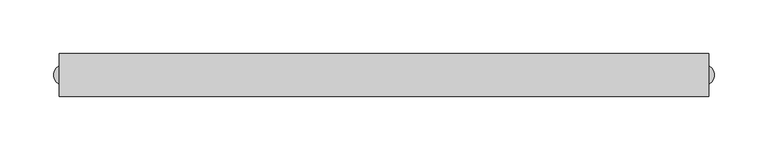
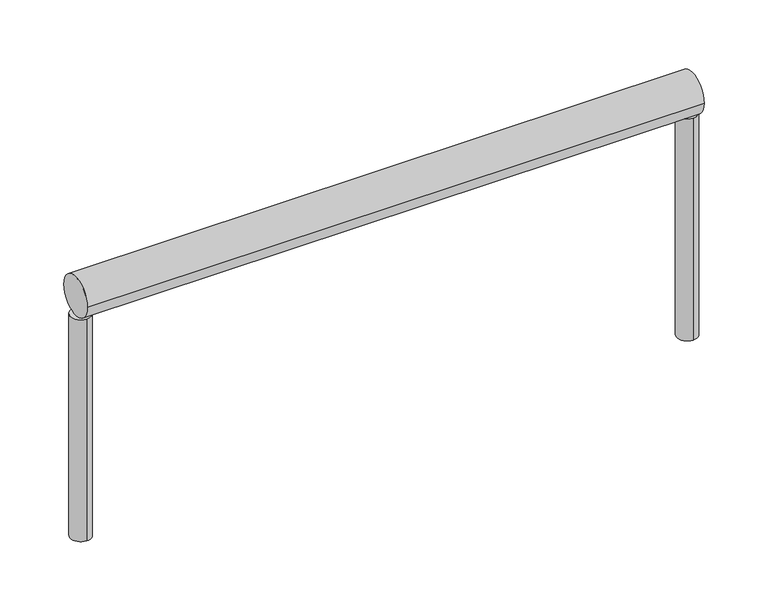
"""IFC4 building model written with IfcOpenShell, lengths in millimetres: railing geometry, Geländer-1."""

from ifc_helpers import new_model, si_unit, point, frame, frame_2d, origin, place, context, project, spatial, circle_curve, trimmed, segment, composite_curve, outline, extrude, source, transform, mapped, element, save


def railing_05958358(model_context):
    return source(origin(), model_context, "Body", "SweptSolid", [
        extrude(outline(composite_curve([segment(trimmed(circle_curve(frame_2d((10745.0, 1250.0)), 20.0), [point((10725.0, 1250.0))], [point((10765.0, 1250.0))], False, "CARTESIAN"), True, "CONTINUOUS"), segment(trimmed(circle_curve(frame_2d((10745.0, 1250.0)), 20.0), [point((10765.0, 1250.0))], [point((10725.0, 1250.0))], False, "CARTESIAN"), True, "CONTINUOUS")], self_intersect=False)), frame((15.0, 0.0, 0.0), z_axis=(1.0, 0.0, 0.0), x_axis=(0.0, 1.0, 0.0)), (0.0, 0.0, 1.0), 605.0),
        extrude(outline(composite_curve([segment(trimmed(circle_curve(frame_2d((20.0, 10745.0)), 10.0), [point((20.0, 10735.0))], [point((20.0, 10755.0))], False, "CARTESIAN"), True, "CONTINUOUS"), segment(trimmed(circle_curve(frame_2d((20.0, 10745.0)), 10.0), [point((20.0, 10755.0))], [point((20.0, 10735.0))], False, "CARTESIAN"), True, "CONTINUOUS")], self_intersect=False)), frame((0.0, 0.0, 1000.0), z_axis=(0.0, 0.0, 1.0), x_axis=(1.0, 0.0, 0.0)), (0.0, 0.0, 1.0), 230.0),
        extrude(outline(composite_curve([segment(trimmed(circle_curve(frame_2d((615.0, 10745.0)), 10.0), [point((615.0, 10735.0))], [point((615.0, 10755.0))], False, "CARTESIAN"), True, "CONTINUOUS"), segment(trimmed(circle_curve(frame_2d((615.0, 10745.0)), 10.0), [point((615.0, 10755.0))], [point((615.0, 10735.0))], False, "CARTESIAN"), True, "CONTINUOUS")], self_intersect=False)), frame((0.0, 0.0, 1000.0), z_axis=(0.0, 0.0, 1.0), x_axis=(1.0, 0.0, 0.0)), (0.0, 0.0, 1.0), 230.0),
    ])


if __name__ == "__main__":
    model = new_model("IFC4")
    model_context = context("Model", 3, world=origin())
    ifc_project = project(units=[si_unit("LENGTHUNIT", "METRE", prefix="MILLI")], contexts=[model_context])
    site = spatial("IfcSite", under=ifc_project)
    building = spatial("IfcBuilding", under=site)
    placement = place(None, origin())
    railing_shape = railing_05958358(model_context)
    element("IfcRailing", 1, ObjectType="Geländer-1", at=placement, inside=building, context=model_context, shape_type="MappedRepresentation", body=[
        mapped(railing_shape, transform((0.0, 0.0, 0.0), x_axis=(1.0, 0.0, 0.0), y_axis=(0.0, 1.0, 0.0), z_axis=(0.0, 0.0, 1.0))),
    ])
    save(model, "model.ifc")
